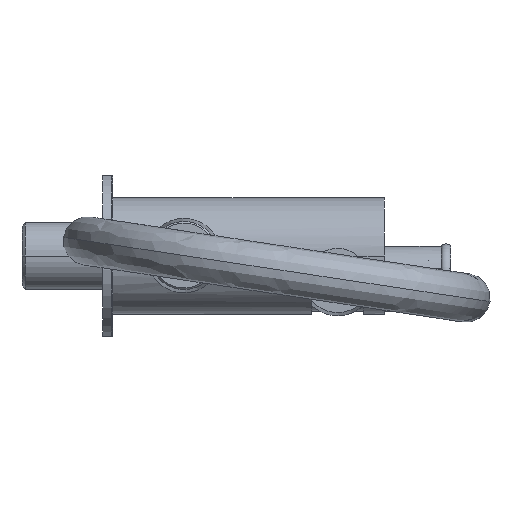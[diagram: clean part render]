
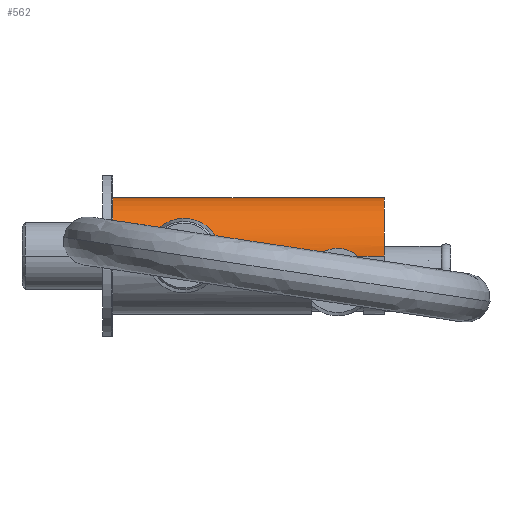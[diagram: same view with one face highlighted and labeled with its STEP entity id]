
A CAD part, front view. The second image highlights one B-rep face of the part: STEP entity #562.
In plain terms, the highlighted cylindrical face has radius 18 mm (diameter 36 mm), a partial arc.
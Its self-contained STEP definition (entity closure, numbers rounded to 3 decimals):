
#19=DIRECTION('',(-1.,0.,0.));
#20=VECTOR('',#19,8.269);
#21=CARTESIAN_POINT('',(112.,-18.,0.));
#22=LINE('',#21,#20);
#28=DIRECTION('',(-1.,0.,0.));
#29=VECTOR('',#28,6.502);
#30=CARTESIAN_POINT('',(112.,18.,0.));
#31=LINE('',#30,#29);
#68=DIRECTION('',(-1.,0.,0.));
#69=VECTOR('',#68,32.469);
#70=CARTESIAN_POINT('',(91.269,-18.,0.));
#71=LINE('',#70,#69);
#104=DIRECTION('',(-1.,0.,0.));
#105=VECTOR('',#104,61.502);
#106=CARTESIAN_POINT('',(89.502,18.,0.));
#107=LINE('',#106,#105);
#108=DIRECTION('',(-1.,0.,0.));
#109=VECTOR('',#108,15.2);
#110=CARTESIAN_POINT('',(43.2,-18.,0.));
#111=LINE('',#110,#109);
#112=CARTESIAN_POINT('',(91.269,-18.,0.));
#113=CARTESIAN_POINT('',(91.647,-18.,0.337));
#114=CARTESIAN_POINT('',(92.448,-17.981,0.942));
#115=CARTESIAN_POINT('',(93.802,-17.927,1.659));
#116=CARTESIAN_POINT('',(95.247,-17.873,2.143));
#117=CARTESIAN_POINT('',(96.744,-17.841,2.387));
#118=CARTESIAN_POINT('',(98.256,-17.841,2.387));
#119=CARTESIAN_POINT('',(99.753,-17.873,2.143));
#120=CARTESIAN_POINT('',(101.198,-17.927,1.659));
#121=CARTESIAN_POINT('',(102.552,-17.981,0.942));
#122=CARTESIAN_POINT('',(103.353,-18.,0.337));
#123=CARTESIAN_POINT('',(103.731,-18.,0.));
#132=CARTESIAN_POINT('',(105.498,18.,0.));
#133=CARTESIAN_POINT('',(105.11,18.,0.443));
#134=CARTESIAN_POINT('',(104.265,17.968,1.261));
#135=CARTESIAN_POINT('',(102.755,17.861,2.294));
#136=CARTESIAN_POINT('',(101.082,17.743,3.053));
#137=CARTESIAN_POINT('',(99.311,17.655,3.514));
#138=CARTESIAN_POINT('',(97.5,17.622,3.667));
#139=CARTESIAN_POINT('',(95.689,17.655,3.514));
#140=CARTESIAN_POINT('',(93.918,17.743,3.053));
#141=CARTESIAN_POINT('',(92.245,17.861,2.294));
#142=CARTESIAN_POINT('',(90.735,17.968,1.261));
#143=CARTESIAN_POINT('',(89.89,18.,0.443));
#144=CARTESIAN_POINT('',(89.502,18.,0.));
#153=CARTESIAN_POINT('',(58.8,-18.,0.));
#154=CARTESIAN_POINT('',(58.8,-18.,0.436));
#155=CARTESIAN_POINT('',(58.729,-17.969,1.308));
#156=CARTESIAN_POINT('',(58.383,-17.822,2.638));
#157=CARTESIAN_POINT('',(57.811,-17.59,3.885));
#158=CARTESIAN_POINT('',(57.009,-17.293,5.038));
#159=CARTESIAN_POINT('',(56.024,-16.972,6.022));
#160=CARTESIAN_POINT('',(54.862,-16.662,6.824));
#161=CARTESIAN_POINT('',(53.62,-16.416,7.388));
#162=CARTESIAN_POINT('',(52.316,-16.258,7.727));
#163=CARTESIAN_POINT('',(51.001,-16.204,7.837));
#164=CARTESIAN_POINT('',(49.684,-16.258,7.727));
#165=CARTESIAN_POINT('',(48.382,-16.416,7.389));
#166=CARTESIAN_POINT('',(47.139,-16.662,6.825));
#167=CARTESIAN_POINT('',(45.977,-16.972,6.022));
#168=CARTESIAN_POINT('',(44.992,-17.292,5.039));
#169=CARTESIAN_POINT('',(44.19,-17.59,3.886));
#170=CARTESIAN_POINT('',(43.617,-17.822,2.639));
#171=CARTESIAN_POINT('',(43.271,-17.969,1.308));
#172=CARTESIAN_POINT('',(43.2,-18.,0.436));
#173=CARTESIAN_POINT('',(43.2,-18.,0.));
#175=CARTESIAN_POINT('',(112.,0.,0.));
#176=DIRECTION('',(1.,0.,0.));
#177=DIRECTION('',(0.,1.,0.));
#178=AXIS2_PLACEMENT_3D('',#175,#176,#177);
#280=CARTESIAN_POINT('',(28.,0.,0.));
#281=DIRECTION('',(1.,0.,0.));
#282=DIRECTION('',(0.,1.,0.));
#283=AXIS2_PLACEMENT_3D('',#280,#281,#282);
#384=CARTESIAN_POINT('',(112.,18.,0.));
#385=CARTESIAN_POINT('',(112.,-18.,0.));
#386=VERTEX_POINT('',#384);
#387=VERTEX_POINT('',#385);
#388=CARTESIAN_POINT('',(28.,18.,0.));
#389=CARTESIAN_POINT('',(28.,-18.,0.));
#390=VERTEX_POINT('',#388);
#391=VERTEX_POINT('',#389);
#408=CARTESIAN_POINT('',(105.498,18.,0.));
#409=VERTEX_POINT('',#408);
#410=CARTESIAN_POINT('',(89.502,18.,0.));
#411=VERTEX_POINT('',#410);
#412=CARTESIAN_POINT('',(103.731,-18.,0.));
#413=VERTEX_POINT('',#412);
#446=VERTEX_POINT('',#153);
#447=VERTEX_POINT('',#173);
#448=CARTESIAN_POINT('',(91.269,-18.,0.));
#449=VERTEX_POINT('',#448);
#543=CARTESIAN_POINT('',(-5.6,0.,0.));
#544=DIRECTION('',(1.,0.,0.));
#545=DIRECTION('',(0.,-1.,0.));
#546=AXIS2_PLACEMENT_3D('',#543,#544,#545);
#547=CYLINDRICAL_SURFACE('',#546,18.);
#549=ORIENTED_EDGE('',*,*,#548,.T.);
#550=ORIENTED_EDGE('',*,*,#508,.T.);
#552=ORIENTED_EDGE('',*,*,#551,.F.);
#553=ORIENTED_EDGE('',*,*,#504,.F.);
#554=ORIENTED_EDGE('',*,*,#534,.F.);
#555=ORIENTED_EDGE('',*,*,#482,.F.);
#556=ORIENTED_EDGE('',*,*,#465,.T.);
#557=ORIENTED_EDGE('',*,*,#479,.T.);
#558=ORIENTED_EDGE('',*,*,#529,.F.);
#559=ORIENTED_EDGE('',*,*,#496,.T.);
#560=EDGE_LOOP('',(#549,#550,#552,#553,#554,#555,#556,#557,#558,#559));
#561=FACE_OUTER_BOUND('',#560,.F.);
#562=ADVANCED_FACE('',(#561),#547,.T.);
#124=B_SPLINE_CURVE_WITH_KNOTS('',3,(#112,#113,#114,#115,#116,#117,#118,#119,
#120,#121,#122,#123),.UNSPECIFIED.,.F.,.F.,(4,1,1,1,1,1,1,1,1,4),(0.,
0.111,0.222,0.333,0.444,
0.556,0.667,0.778,0.889,1.),
.UNSPECIFIED.);
#145=B_SPLINE_CURVE_WITH_KNOTS('',3,(#132,#133,#134,#135,#136,#137,#138,#139,
#140,#141,#142,#143,#144),.UNSPECIFIED.,.F.,.F.,(4,1,1,1,1,1,1,1,1,1,4),(0.,
0.1,0.2,0.3,0.4,0.5,0.6,0.7,0.8,0.9,1.),.UNSPECIFIED.);
#174=B_SPLINE_CURVE_WITH_KNOTS('',3,(#153,#154,#155,#156,#157,#158,#159,#160,
#161,#162,#163,#164,#165,#166,#167,#168,#169,#170,#171,#172,#173),.UNSPECIFIED.,
.F.,.F.,(4,1,1,1,1,1,1,1,1,1,1,1,1,1,1,1,1,1,4),(0.,0.056,
0.111,0.167,0.222,0.278,
0.333,0.389,0.444,0.5,0.556,
0.611,0.667,0.722,0.778,
0.833,0.889,0.944,1.),.UNSPECIFIED.);
#179=CIRCLE('',#178,18.);
#284=CIRCLE('',#283,18.);
#465=EDGE_CURVE('',#386,#387,#179,.T.);
#479=EDGE_CURVE('',#387,#413,#22,.T.);
#482=EDGE_CURVE('',#386,#409,#31,.T.);
#496=EDGE_CURVE('',#449,#446,#71,.T.);
#504=EDGE_CURVE('',#411,#390,#107,.T.);
#508=EDGE_CURVE('',#447,#391,#111,.T.);
#529=EDGE_CURVE('',#449,#413,#124,.T.);
#534=EDGE_CURVE('',#409,#411,#145,.T.);
#548=EDGE_CURVE('',#446,#447,#174,.T.);
#551=EDGE_CURVE('',#390,#391,#284,.T.);
